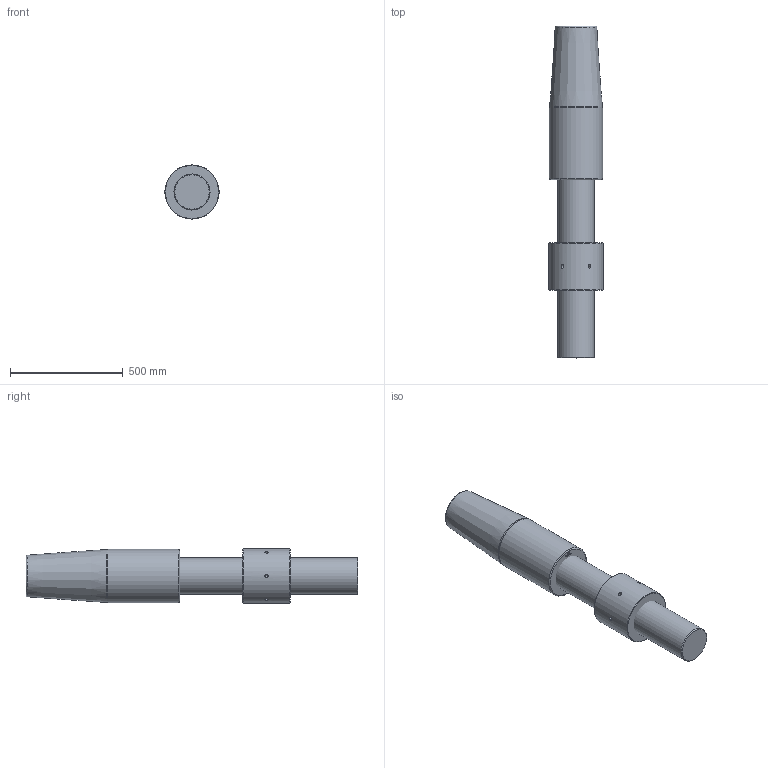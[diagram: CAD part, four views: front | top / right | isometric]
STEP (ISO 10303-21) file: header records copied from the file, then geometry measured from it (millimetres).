
FILE_DESCRIPTION(/* description */ (''),/* implementation_level */ '2;1');
FILE_NAME(/* name */ 'C:\Users\ranca\Desktop\CYM\ARRANGEMENT\CYM080 52 061 0.stp',/* time_stamp */ '2021-04-22T22:00:02+02:00',/* author */ ('ranca'),/* organization */ (''),/* preprocessor_version */ 'ST-DEVELOPER v16.13',/* originating_system */ 'Autodesk Inventor 2018',/* authorisation */ '');
FILE_SCHEMA (('AUTOMOTIVE_DESIGN { 1 0 10303 214 3 1 1 }'));
Length unit declared in the file: millimetre
Products named in the file (4): CYM080-52-061-0; CYM012-52-061-0_ROD; CYC080 52 065 0_CYL SOK_RH; CYM080-41-051-0
Assembly tree (3 placements, depth 2):
  CYM080-52-061-0
    CYM012-52-061-0_ROD
    CYC080 52 065 0_CYL SOK_RH
    CYM080-41-051-0
Bounding box: 240 x 1470 x 240 mm (x, y, z)
Volume: 55921913 mm3; surface area: 1333071.8 mm2
Topology: 3 solids, 3 shells, 516 faces, 1369 edges, 910 vertices
Faces by surface type: bspline 289, plane 205, cone 11, cylinder 9, torus 2
Full cylindrical faces by diameter (mm): 15 x6, 160 x1, 235 x1, 240 x1
Entity records: 17578 total; most frequent: CARTESIAN_POINT 6749, ORIENTED_EDGE 2680, EDGE_CURVE 1340, DIRECTION 1241, VERTEX_POINT 904, LINE 729, VECTOR 729, EDGE_LOOP 590
